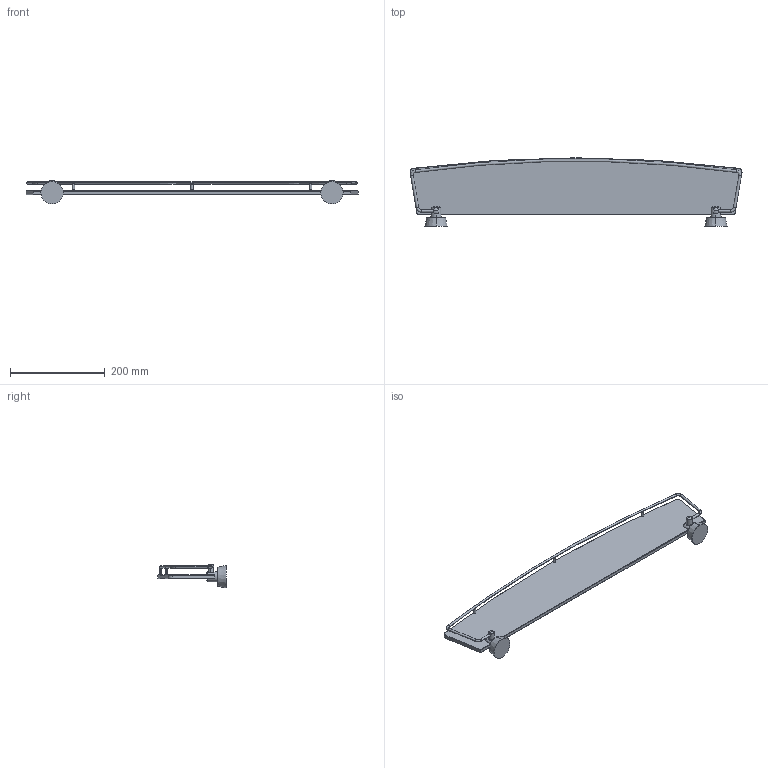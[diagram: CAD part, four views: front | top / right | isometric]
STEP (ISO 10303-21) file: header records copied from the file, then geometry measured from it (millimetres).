
FILE_DESCRIPTION(('THIS FILE CONTAINS SOME STEP INSTANCES'),'1');
FILE_NAME('viz_017.stp','2015-12-02T14:30:35',('UNDEFINED'),('UNDEFINED'),'T-FLEX CAD STEP converter','T-FLEX CAD','');
FILE_SCHEMA(('CONFIG_CONTROL_DESIGN'));
Length unit declared in the file: metre
Products named in the file (2): 3D 鐨飹懤艜_12; 610112
Bounding box: 700 x 144.1 x 50.4 mm (x, y, z)
Volume: 704452.6 mm3; surface area: 196728.3 mm2
Topology: 2 solids, 2 shells, 161 faces, 349 edges, 193 vertices
Faces by surface type: plane 44, cone 38, bspline 30, cylinder 25, torus 14, sphere 10
Entity records: 14164 total; most frequent: CARTESIAN_POINT 11145, ORIENTED_EDGE 690, DIRECTION 512, EDGE_CURVE 345, VERTEX_POINT 193, AXIS2_PLACEMENT_3D 184, EDGE_LOOP 166, ADVANCED_FACE 161
